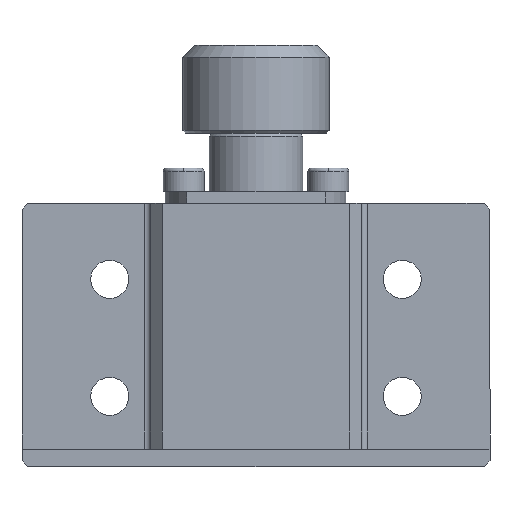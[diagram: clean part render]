
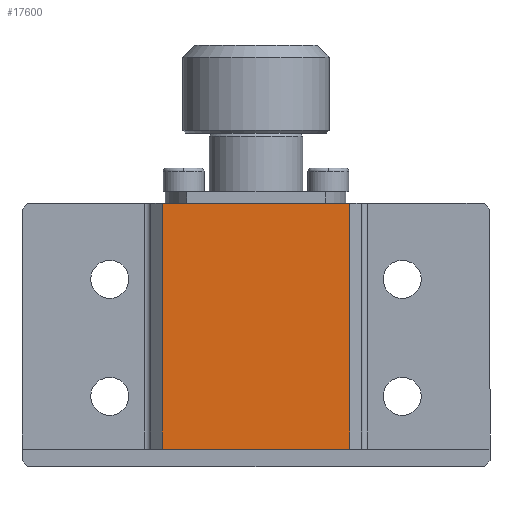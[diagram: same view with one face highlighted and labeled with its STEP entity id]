
A CAD part, front view. The second image highlights one B-rep face of the part: STEP entity #17600.
In plain terms, the highlighted planar face has unit normal (0, -1, 0).
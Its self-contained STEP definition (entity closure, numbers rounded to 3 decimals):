
#418 = DIRECTION ( 'NONE',  ( 1., 0., 0. ) ) ;
#999 = ORIENTED_EDGE ( 'NONE', *, *, #8587, .F. ) ;
#1221 = LINE ( 'NONE', #5587, #6614 ) ;
#1294 = CARTESIAN_POINT ( 'NONE',  ( 130.963, 22.789, -18.336 ) ) ;
#1359 = DIRECTION ( 'NONE',  ( 0., 1., 0. ) ) ;
#1452 = CARTESIAN_POINT ( 'NONE',  ( 90.963, 22.789, -18.336 ) ) ;
#1737 = CARTESIAN_POINT ( 'NONE',  ( 106.963, 22.789, -18.336 ) ) ;
#1861 = DIRECTION ( 'NONE',  ( 0., 0., 1. ) ) ;
#2750 = PLANE ( 'NONE',  #9574 ) ;
#2777 = DIRECTION ( 'NONE',  ( 1., 0., 0. ) ) ;
#2894 = CARTESIAN_POINT ( 'NONE',  ( 130.963, 22.789, -60.336 ) ) ;
#3026 = VERTEX_POINT ( 'NONE', #16665 ) ;
#3638 = LINE ( 'NONE', #1737, #16949 ) ;
#4922 = CARTESIAN_POINT ( 'NONE',  ( 106.963, 22.789, -18.336 ) ) ;
#5187 = CARTESIAN_POINT ( 'NONE',  ( 74.963, 22.789, -60.336 ) ) ;
#5351 = LINE ( 'NONE', #2894, #12154 ) ;
#5417 = DIRECTION ( 'NONE',  ( 0., 0., 1. ) ) ;
#5587 = CARTESIAN_POINT ( 'NONE',  ( 74.963, 22.789, -18.336 ) ) ;
#6010 = EDGE_LOOP ( 'NONE', ( #10548, #8528, #13125, #999 ) ) ;
#6614 = VECTOR ( 'NONE', #5417, 1000. ) ;
#8505 = EDGE_CURVE ( 'NONE', #10684, #14354, #1221, .T. ) ;
#8528 = ORIENTED_EDGE ( 'NONE', *, *, #8555, .T. ) ;
#8555 = EDGE_CURVE ( 'NONE', #10684, #3026, #5351, .T. ) ;
#8581 = EDGE_CURVE ( 'NONE', #3026, #12321, #3638, .T. ) ;
#8587 = EDGE_CURVE ( 'NONE', #14354, #12321, #11702, .T. ) ;
#8625 = CARTESIAN_POINT ( 'NONE',  ( 74.963, 22.789, -18.336 ) ) ;
#9574 = AXIS2_PLACEMENT_3D ( 'NONE', #1294, #1359, #10905 ) ;
#10548 = ORIENTED_EDGE ( 'NONE', *, *, #8505, .F. ) ;
#10684 = VERTEX_POINT ( 'NONE', #5187 ) ;
#10905 = DIRECTION ( 'NONE',  ( 0., 0., 1. ) ) ;
#11702 = LINE ( 'NONE', #1452, #12774 ) ;
#12154 = VECTOR ( 'NONE', #2777, 1000. ) ;
#12321 = VERTEX_POINT ( 'NONE', #4922 ) ;
#12480 = FACE_OUTER_BOUND ( 'NONE', #6010, .T. ) ;
#12774 = VECTOR ( 'NONE', #418, 1000. ) ;
#13125 = ORIENTED_EDGE ( 'NONE', *, *, #8581, .T. ) ;
#14354 = VERTEX_POINT ( 'NONE', #8625 ) ;
#16665 = CARTESIAN_POINT ( 'NONE',  ( 106.963, 22.789, -60.336 ) ) ;
#16949 = VECTOR ( 'NONE', #1861, 1000. ) ;
#17600 = ADVANCED_FACE ( 'NONE', ( #12480 ), #2750, .F. ) ;
